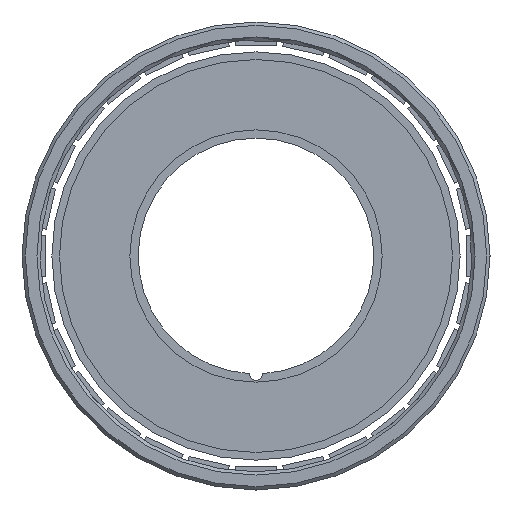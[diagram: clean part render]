
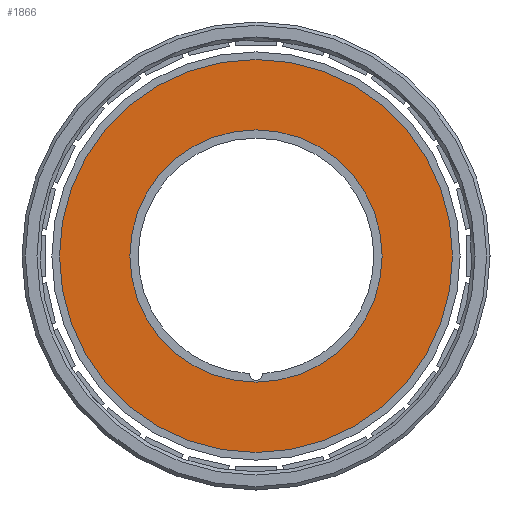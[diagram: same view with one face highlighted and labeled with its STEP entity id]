
A CAD part, front view. The second image highlights one B-rep face of the part: STEP entity #1866.
In plain terms, the highlighted planar face has unit normal (0, -1, 0).
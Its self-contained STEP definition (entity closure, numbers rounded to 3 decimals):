
#236 = EDGE_CURVE ( 'NONE', #2010, #2010, #5800, .T. ) ;
#635 = AXIS2_PLACEMENT_3D ( 'NONE', #1869, #1330, #3178 ) ;
#1263 = DIRECTION ( 'NONE',  ( 0., 0., -1. ) ) ;
#1281 = ORIENTED_EDGE ( 'NONE', *, *, #236, .T. ) ;
#1330 = DIRECTION ( 'NONE',  ( 0., -1., 0. ) ) ;
#1347 = FACE_BOUND ( 'NONE', #3302, .T. ) ;
#1866 = ADVANCED_FACE ( 'NONE', ( #1930, #1347 ), #3093, .T. ) ;
#1869 = CARTESIAN_POINT ( 'NONE',  ( 0., -3., 0. ) ) ;
#1880 = AXIS2_PLACEMENT_3D ( 'NONE', #5581, #3736, #7333 ) ;
#1930 = FACE_OUTER_BOUND ( 'NONE', #4542, .T. ) ;
#2010 = VERTEX_POINT ( 'NONE', #4014 ) ;
#3093 = PLANE ( 'NONE',  #635 ) ;
#3116 = DIRECTION ( 'NONE',  ( 0., -1., 0. ) ) ;
#3156 = CARTESIAN_POINT ( 'NONE',  ( 0., -3., 0. ) ) ;
#3178 = DIRECTION ( 'NONE',  ( 0., 0., -1. ) ) ;
#3302 = EDGE_LOOP ( 'NONE', ( #7261 ) ) ;
#3736 = DIRECTION ( 'NONE',  ( 0., -1., 0. ) ) ;
#4014 = CARTESIAN_POINT ( 'NONE',  ( 0., -3., -29.6 ) ) ;
#4542 = EDGE_LOOP ( 'NONE', ( #1281 ) ) ;
#5212 = CARTESIAN_POINT ( 'NONE',  ( 0., -3., -19. ) ) ;
#5581 = CARTESIAN_POINT ( 'NONE',  ( 0., -3., 0. ) ) ;
#5800 = CIRCLE ( 'NONE', #6179, 29.6 ) ;
#5853 = VERTEX_POINT ( 'NONE', #5212 ) ;
#5859 = CIRCLE ( 'NONE', #1880, 19. ) ;
#6179 = AXIS2_PLACEMENT_3D ( 'NONE', #3156, #3116, #1263 ) ;
#7148 = EDGE_CURVE ( 'NONE', #5853, #5853, #5859, .T. ) ;
#7261 = ORIENTED_EDGE ( 'NONE', *, *, #7148, .F. ) ;
#7333 = DIRECTION ( 'NONE',  ( 0., 0., -1. ) ) ;
